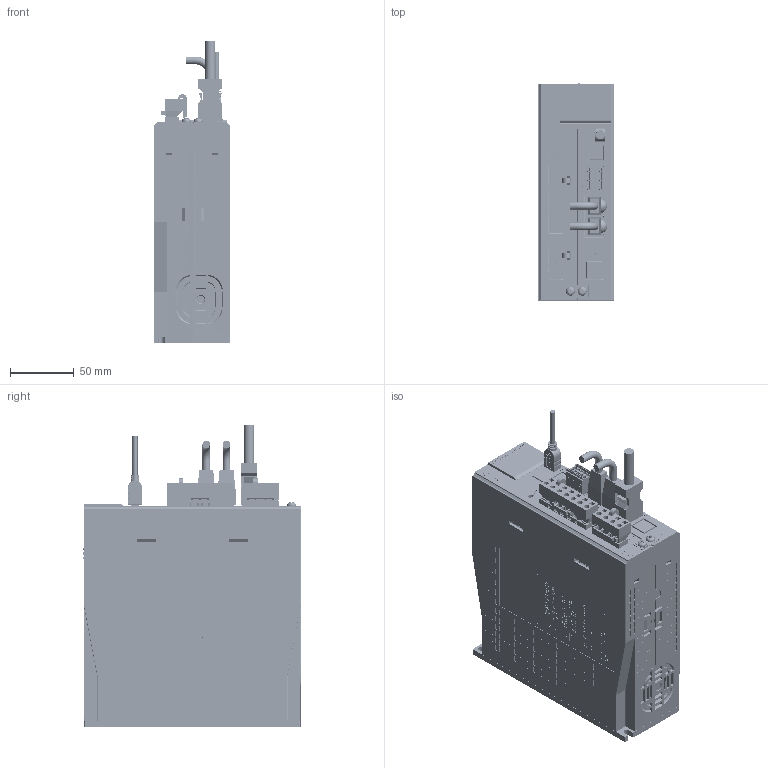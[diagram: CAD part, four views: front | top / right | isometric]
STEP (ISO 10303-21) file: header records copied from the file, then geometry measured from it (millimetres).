
FILE_DESCRIPTION(('CATIA V5 STEP Exchange'),'2;1');
FILE_NAME('C:\Users\xinje\Desktop\DS5C2-41P5-PTA-官网图+EPLAN图-240512.stp','2024-05-14T06:56:36+00:00',('none'),('none'),'CATIA Version 5 Release 20 GA (IN-10)','CATIA V5 STEP AP203','none');
FILE_SCHEMA(('CONFIG_CONTROL_DESIGN'));
Products named in the file (2): DS5C2-41P5-PTA-官网图+EPLAN图-240511_stp_stp; QIJIAN227227227227
Assembly tree (14 placements, depth 3):
  DS5C2-41P5-PTA-官网图+EPLAN图-240511_stp_stp
    #58
    #11880
    #14168
    QIJIAN227227227227
      #107219
      #114934
      #124129
      #125858
      #130793
      #219344
      #226979
    #288496
    #753511
    #784031
Bounding box: 60 x 169.9 x 236.45 mm (x, y, z)
Surface area: 401403.8 mm2
Topology: 918 solids, 928 shells, 22453 faces, 63772 edges, 43518 vertices
Faces by surface type: plane 16254, cylinder 3089, bspline 2535, sphere 282, cone 157, torus 129, extrusion 7
Entity records: 798748 total; most frequent: CARTESIAN_POINT 253294, ORIENTED_EDGE 127140, DIRECTION 86410, EDGE_CURVE 63570, VERTEX_POINT 43518, VECTOR 43193, LINE 43186, EDGE_LOOP 23942
